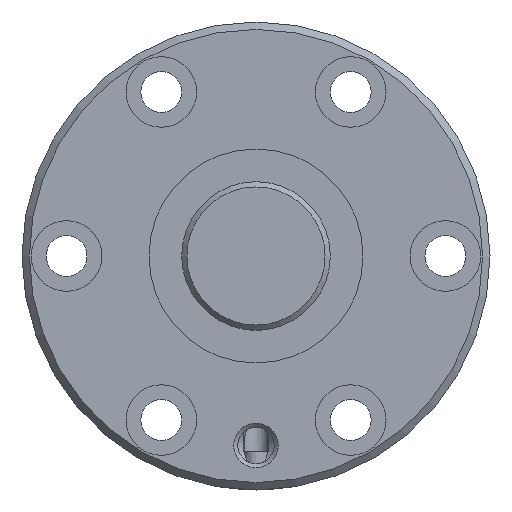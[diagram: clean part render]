
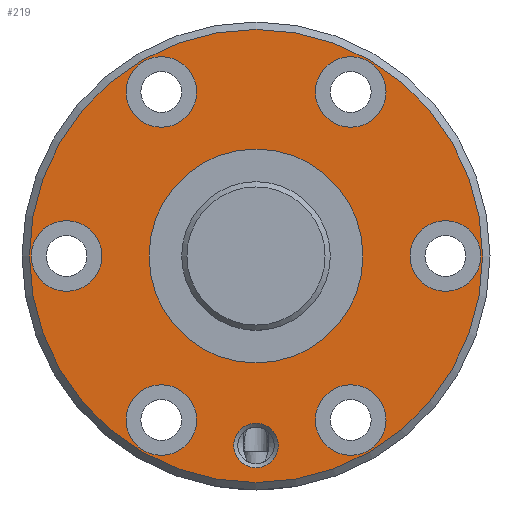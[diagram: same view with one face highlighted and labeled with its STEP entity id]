
A CAD part, left-side view. The second image highlights one B-rep face of the part: STEP entity #219.
In plain terms, the highlighted planar face has unit normal (-1, 0, 0).
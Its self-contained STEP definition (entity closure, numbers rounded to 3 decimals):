
#219 = ADVANCED_FACE( '', ( #390, #391, #392, #393, #394, #395, #396, #397, #398 ), #399, .T. );
#390 = FACE_BOUND( '', #629, .T. );
#391 = FACE_BOUND( '', #630, .T. );
#392 = FACE_BOUND( '', #631, .T. );
#393 = FACE_BOUND( '', #632, .T. );
#394 = FACE_BOUND( '', #633, .T. );
#395 = FACE_BOUND( '', #634, .T. );
#396 = FACE_BOUND( '', #635, .T. );
#397 = FACE_BOUND( '', #636, .T. );
#398 = FACE_OUTER_BOUND( '', #637, .T. );
#399 = PLANE( '', #638 );
#629 = EDGE_LOOP( '', ( #1059 ) );
#630 = EDGE_LOOP( '', ( #1060 ) );
#631 = EDGE_LOOP( '', ( #1061 ) );
#632 = EDGE_LOOP( '', ( #1062 ) );
#633 = EDGE_LOOP( '', ( #1063 ) );
#634 = EDGE_LOOP( '', ( #1064 ) );
#635 = EDGE_LOOP( '', ( #1065 ) );
#636 = EDGE_LOOP( '', ( #1066 ) );
#637 = EDGE_LOOP( '', ( #1067 ) );
#638 = AXIS2_PLACEMENT_3D( '', #1068, #1069, #1070 );
#1059 = ORIENTED_EDGE( '', *, *, #1342, .T. );
#1060 = ORIENTED_EDGE( '', *, *, #1343, .T. );
#1061 = ORIENTED_EDGE( '', *, *, #1265, .T. );
#1062 = ORIENTED_EDGE( '', *, *, #1341, .T. );
#1063 = ORIENTED_EDGE( '', *, *, #1344, .T. );
#1064 = ORIENTED_EDGE( '', *, *, #1345, .T. );
#1065 = ORIENTED_EDGE( '', *, *, #1346, .T. );
#1066 = ORIENTED_EDGE( '', *, *, #1347, .T. );
#1067 = ORIENTED_EDGE( '', *, *, #1348, .F. );
#1068 = CARTESIAN_POINT( '', ( 0., 30.5, 0. ) );
#1069 = DIRECTION( '', ( -1., 0., 0. ) );
#1070 = DIRECTION( '', ( 0., 0., 1. ) );
#1265 = EDGE_CURVE( '', #1419, #1419, #1420, .T. );
#1341 = EDGE_CURVE( '', #1549, #1549, #1550, .T. );
#1342 = EDGE_CURVE( '', #1551, #1551, #1552, .T. );
#1343 = EDGE_CURVE( '', #1553, #1553, #1554, .F. );
#1344 = EDGE_CURVE( '', #1555, #1555, #1556, .T. );
#1345 = EDGE_CURVE( '', #1557, #1557, #1558, .T. );
#1346 = EDGE_CURVE( '', #1559, #1559, #1560, .T. );
#1347 = EDGE_CURVE( '', #1561, #1561, #1562, .T. );
#1348 = EDGE_CURVE( '', #1563, #1563, #1564, .T. );
#1419 = VERTEX_POINT( '', #1760 );
#1420 = CIRCLE( '', #1761, 3. );
#1549 = VERTEX_POINT( '', #2062 );
#1550 = CIRCLE( '', #2063, 4.75 );
#1551 = VERTEX_POINT( '', #2064 );
#1552 = CIRCLE( '', #2065, 14.4 );
#1553 = VERTEX_POINT( '', #2066 );
#1554 = CIRCLE( '', #2067, 4.75 );
#1555 = VERTEX_POINT( '', #2068 );
#1556 = CIRCLE( '', #2069, 4.75 );
#1557 = VERTEX_POINT( '', #2070 );
#1558 = CIRCLE( '', #2071, 4.75 );
#1559 = VERTEX_POINT( '', #2072 );
#1560 = CIRCLE( '', #2073, 4.75 );
#1561 = VERTEX_POINT( '', #2074 );
#1562 = CIRCLE( '', #2075, 4.75 );
#1563 = VERTEX_POINT( '', #2076 );
#1564 = CIRCLE( '', #2077, 30.5 );
#1760 = CARTESIAN_POINT( '', ( 0., 0., -28.5 ) );
#1761 = AXIS2_PLACEMENT_3D( '', #2227, #2228, #2229 );
#2062 = CARTESIAN_POINT( '', ( 0., 12.75, 17.334 ) );
#2063 = AXIS2_PLACEMENT_3D( '', #2379, #2380, #2381 );
#2064 = CARTESIAN_POINT( '', ( 0., 0., -14.4 ) );
#2065 = AXIS2_PLACEMENT_3D( '', #2382, #2383, #2384 );
#2066 = CARTESIAN_POINT( '', ( 0., 25.5, 4.75 ) );
#2067 = AXIS2_PLACEMENT_3D( '', #2385, #2386, #2387 );
#2068 = CARTESIAN_POINT( '', ( 0., -12.75, -26.834 ) );
#2069 = AXIS2_PLACEMENT_3D( '', #2388, #2389, #2390 );
#2070 = CARTESIAN_POINT( '', ( 0., -12.75, 17.334 ) );
#2071 = AXIS2_PLACEMENT_3D( '', #2391, #2392, #2393 );
#2072 = CARTESIAN_POINT( '', ( 0., 12.75, -26.834 ) );
#2073 = AXIS2_PLACEMENT_3D( '', #2394, #2395, #2396 );
#2074 = CARTESIAN_POINT( '', ( 0., -25.5, -4.75 ) );
#2075 = AXIS2_PLACEMENT_3D( '', #2397, #2398, #2399 );
#2076 = CARTESIAN_POINT( '', ( 0., 0., -30.5 ) );
#2077 = AXIS2_PLACEMENT_3D( '', #2400, #2401, #2402 );
#2227 = CARTESIAN_POINT( '', ( 0., 0., -25.5 ) );
#2228 = DIRECTION( '', ( 1., 0., 0. ) );
#2229 = DIRECTION( '', ( 0., 0., -1. ) );
#2379 = CARTESIAN_POINT( '', ( 0., 12.75, 22.084 ) );
#2380 = DIRECTION( '', ( 1., 0., 0. ) );
#2381 = DIRECTION( '', ( 0., 0., -1. ) );
#2382 = CARTESIAN_POINT( '', ( 0., 0., 0. ) );
#2383 = DIRECTION( '', ( 1., 0., 0. ) );
#2384 = DIRECTION( '', ( 0., 0., -1. ) );
#2385 = CARTESIAN_POINT( '', ( 0., 25.5, 0. ) );
#2386 = DIRECTION( '', ( -1., 0., 0. ) );
#2387 = DIRECTION( '', ( 0., 0., 1. ) );
#2388 = CARTESIAN_POINT( '', ( 0., -12.75, -22.084 ) );
#2389 = DIRECTION( '', ( 1., 0., 0. ) );
#2390 = DIRECTION( '', ( 0., 0., -1. ) );
#2391 = CARTESIAN_POINT( '', ( 0., -12.75, 22.084 ) );
#2392 = DIRECTION( '', ( 1., 0., 0. ) );
#2393 = DIRECTION( '', ( 0., 0., -1. ) );
#2394 = CARTESIAN_POINT( '', ( 0., 12.75, -22.084 ) );
#2395 = DIRECTION( '', ( 1., 0., 0. ) );
#2396 = DIRECTION( '', ( 0., 0., -1. ) );
#2397 = CARTESIAN_POINT( '', ( 0., -25.5, 0. ) );
#2398 = DIRECTION( '', ( 1., 0., 0. ) );
#2399 = DIRECTION( '', ( 0., 0., -1. ) );
#2400 = CARTESIAN_POINT( '', ( 0., 0., 0. ) );
#2401 = DIRECTION( '', ( 1., 0., 0. ) );
#2402 = DIRECTION( '', ( 0., 0., -1. ) );
